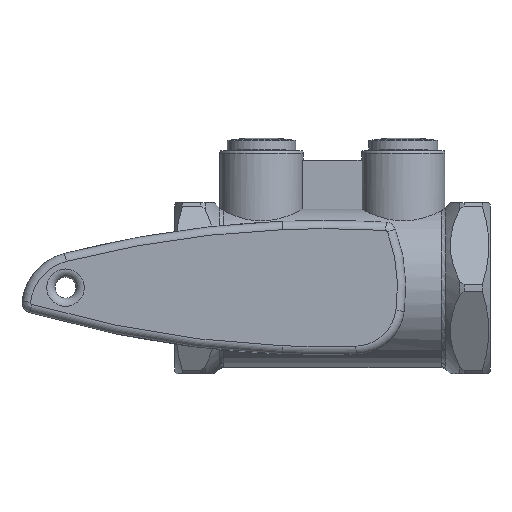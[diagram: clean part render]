
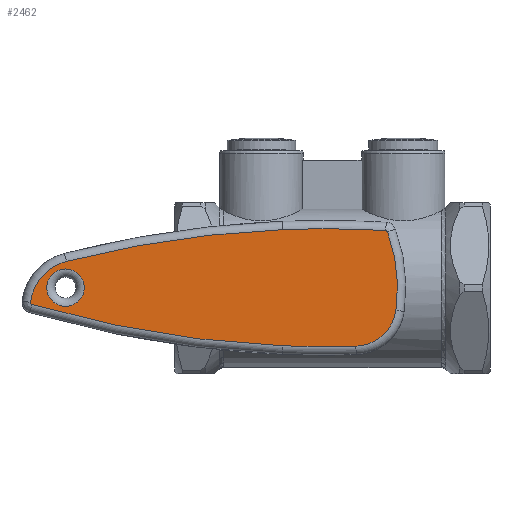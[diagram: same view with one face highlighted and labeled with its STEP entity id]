
A CAD part, top view. The second image highlights one B-rep face of the part: STEP entity #2462.
In plain terms, the highlighted planar face has unit normal (0, 0, 1).
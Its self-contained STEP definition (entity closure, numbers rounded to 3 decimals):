
#181=PLANE('',#2786);
#205=FACE_BOUND('',#466,.T.);
#317=FACE_OUTER_BOUND('',#465,.T.);
#465=EDGE_LOOP('',(#2120,#2121,#2122,#2123,#2124,#2125,#2126,#2127,#2128));
#466=EDGE_LOOP('',(#2129));
#666=CIRCLE('',#2783,4.498);
#669=CIRCLE('',#2787,251.926);
#670=CIRCLE('',#2788,9.993);
#671=CIRCLE('',#2789,38.627);
#672=CIRCLE('',#2790,0.5);
#673=CIRCLE('',#2791,251.926);
#674=CIRCLE('',#2792,252.306);
#675=CIRCLE('',#2793,11.669);
#676=CIRCLE('',#2794,0.5);
#677=CIRCLE('',#2795,252.163);
#1101=VERTEX_POINT('',#4515);
#1103=VERTEX_POINT('',#4521);
#1104=VERTEX_POINT('',#4522);
#1105=VERTEX_POINT('',#4524);
#1106=VERTEX_POINT('',#4526);
#1107=VERTEX_POINT('',#4528);
#1108=VERTEX_POINT('',#4530);
#1109=VERTEX_POINT('',#4532);
#1110=VERTEX_POINT('',#4534);
#1111=VERTEX_POINT('',#4536);
#1452=EDGE_CURVE('',#1101,#1101,#666,.T.);
#1455=EDGE_CURVE('',#1103,#1104,#669,.T.);
#1456=EDGE_CURVE('',#1105,#1103,#670,.T.);
#1457=EDGE_CURVE('',#1106,#1105,#671,.T.);
#1458=EDGE_CURVE('',#1107,#1106,#672,.T.);
#1459=EDGE_CURVE('',#1108,#1107,#673,.T.);
#1460=EDGE_CURVE('',#1109,#1108,#674,.T.);
#1461=EDGE_CURVE('',#1110,#1109,#675,.T.);
#1462=EDGE_CURVE('',#1111,#1110,#676,.T.);
#1463=EDGE_CURVE('',#1104,#1111,#677,.T.);
#2120=ORIENTED_EDGE('',*,*,#1455,.F.);
#2121=ORIENTED_EDGE('',*,*,#1456,.F.);
#2122=ORIENTED_EDGE('',*,*,#1457,.F.);
#2123=ORIENTED_EDGE('',*,*,#1458,.F.);
#2124=ORIENTED_EDGE('',*,*,#1459,.F.);
#2125=ORIENTED_EDGE('',*,*,#1460,.F.);
#2126=ORIENTED_EDGE('',*,*,#1461,.F.);
#2127=ORIENTED_EDGE('',*,*,#1462,.F.);
#2128=ORIENTED_EDGE('',*,*,#1463,.F.);
#2129=ORIENTED_EDGE('',*,*,#1452,.F.);
#2462=ADVANCED_FACE('',(#317,#205),#181,.T.);
#2783=AXIS2_PLACEMENT_3D('',#4516,#3443,#3444);
#2786=AXIS2_PLACEMENT_3D('',#4520,#3449,#3450);
#2787=AXIS2_PLACEMENT_3D('',#4523,#3451,#3452);
#2788=AXIS2_PLACEMENT_3D('',#4525,#3453,#3454);
#2789=AXIS2_PLACEMENT_3D('',#4527,#3455,#3456);
#2790=AXIS2_PLACEMENT_3D('',#4529,#3457,#3458);
#2791=AXIS2_PLACEMENT_3D('',#4531,#3459,#3460);
#2792=AXIS2_PLACEMENT_3D('',#4533,#3461,#3462);
#2793=AXIS2_PLACEMENT_3D('',#4535,#3463,#3464);
#2794=AXIS2_PLACEMENT_3D('',#4537,#3465,#3466);
#2795=AXIS2_PLACEMENT_3D('',#4538,#3467,#3468);
#3443=DIRECTION('center_axis',(0.,0.,1.));
#3444=DIRECTION('ref_axis',(-1.,0.,0.));
#3449=DIRECTION('center_axis',(0.,0.,1.));
#3450=DIRECTION('ref_axis',(1.,0.,0.));
#3451=DIRECTION('center_axis',(0.,0.,-1.));
#3452=DIRECTION('ref_axis',(-0.005,-1.,0.));
#3453=DIRECTION('center_axis',(0.,0.,-1.));
#3454=DIRECTION('ref_axis',(0.667,-0.745,0.));
#3455=DIRECTION('center_axis',(0.,0.,-1.));
#3456=DIRECTION('ref_axis',(0.994,0.106,0.));
#3457=DIRECTION('center_axis',(0.,0.,-1.));
#3458=DIRECTION('ref_axis',(0.595,0.804,0.));
#3459=DIRECTION('center_axis',(0.,0.,-1.));
#3460=DIRECTION('ref_axis',(0.009,1.,0.));
#3461=DIRECTION('center_axis',(0.,0.,-1.));
#3462=DIRECTION('ref_axis',(-0.146,0.989,0.));
#3463=DIRECTION('center_axis',(0.,0.,-1.));
#3464=DIRECTION('ref_axis',(-0.748,0.664,0.));
#3465=DIRECTION('center_axis',(0.,0.,-1.));
#3466=DIRECTION('ref_axis',(-0.838,-0.546,0.));
#3467=DIRECTION('center_axis',(0.,0.,-1.));
#3468=DIRECTION('ref_axis',(-0.162,-0.987,0.));
#4515=CARTESIAN_POINT('',(-59.493,0.,82.));
#4516=CARTESIAN_POINT('Origin',(-63.991,0.,
82.));
#4520=CARTESIAN_POINT('Origin',(-25.369,0.078,82.));
#4521=CARTESIAN_POINT('',(5.645,-14.017,82.));
#4522=CARTESIAN_POINT('',(-11.948,-13.924,82.));
#4523=CARTESIAN_POINT('Origin',(-1.826,237.798,82.));
#4524=CARTESIAN_POINT('',(15.243,-5.433,82.));
#4525=CARTESIAN_POINT('Origin',(5.35,-4.028,82.));
#4526=CARTESIAN_POINT('',(13.237,13.377,82.));
#4527=CARTESIAN_POINT('Origin',(-23.,0.,
82.));
#4528=CARTESIAN_POINT('',(12.797,13.703,82.));
#4529=CARTESIAN_POINT('Origin',(12.768,13.204,82.));
#4530=CARTESIAN_POINT('',(-11.947,13.924,82.));
#4531=CARTESIAN_POINT('Origin',(-1.826,-237.798,82.));
#4532=CARTESIAN_POINT('',(-63.738,6.304,82.));
#4533=CARTESIAN_POINT('Origin',(-1.313,-238.158,82.));
#4534=CARTESIAN_POINT('',(-72.417,-3.479,82.));
#4535=CARTESIAN_POINT('Origin',(-60.848,-5.001,82.));
#4536=CARTESIAN_POINT('',(-72.061,-4.024,82.));
#4537=CARTESIAN_POINT('Origin',(-71.921,-3.544,82.));
#4538=CARTESIAN_POINT('Origin',(-1.33,238.015,82.));
